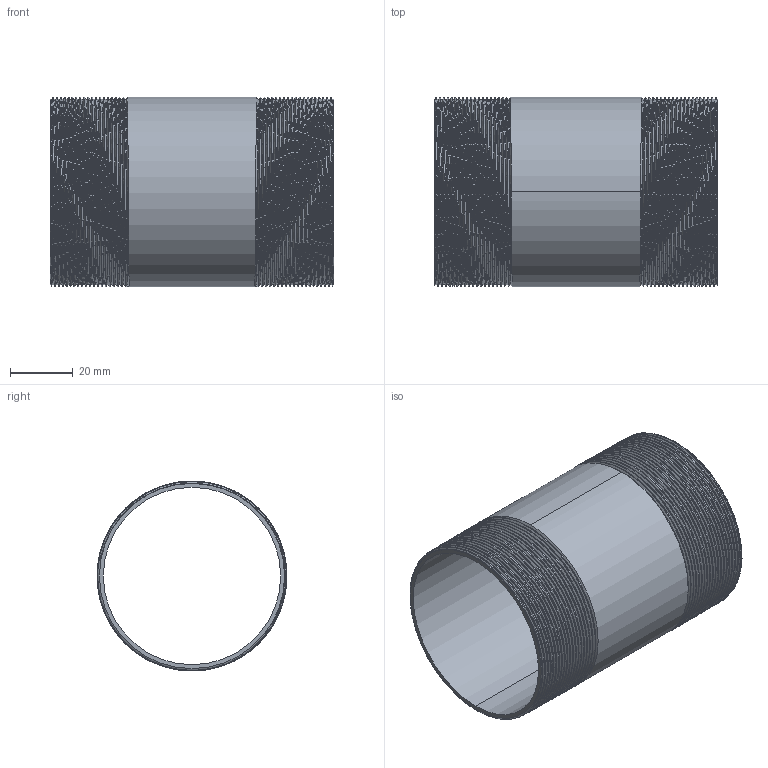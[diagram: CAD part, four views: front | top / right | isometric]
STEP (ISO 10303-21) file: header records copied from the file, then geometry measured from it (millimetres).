
FILE_DESCRIPTION (( 'STEP AP203' ), '1' );
FILE_NAME ('3D_R210_2x90_17148615.STEP', '2024-08-16T10:14:04', ( '' ), ( '' ), 'SwSTEP 2.0', 'SolidWorks 2024', '' );
FILE_SCHEMA (( 'CONFIG_CONTROL_DESIGN' ));
Length unit declared in the file: millimetre
Products named in the file (1): 3D_R210_2x90_17148615
Bounding box: 90 x 60.3 x 60.3 mm (x, y, z)
Volume: 29082.8 mm3; surface area: 38309.1 mm2
Topology: 1 solids, 1 shells, 98 faces, 280 edges, 184 vertices
Faces by surface type: cone 84, bspline 6, cylinder 4, plane 4
Entity records: 18321 total; most frequent: CARTESIAN_POINT 16045, ORIENTED_EDGE 560, DIRECTION 308, EDGE_CURVE 280, VERTEX_POINT 184, B_SPLINE_CURVE_WITH_KNOTS 164, AXIS2_PLACEMENT_3D 107, EDGE_LOOP 100
